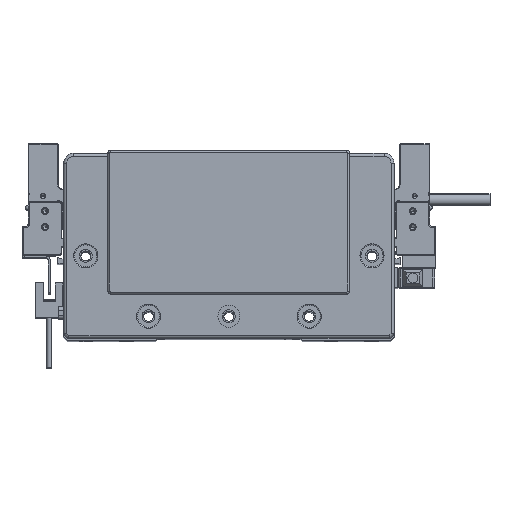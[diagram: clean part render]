
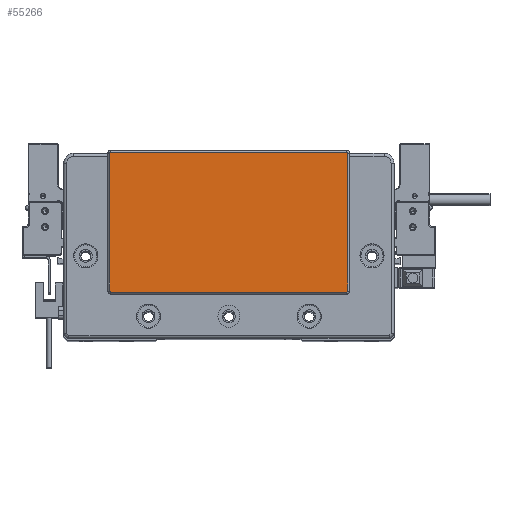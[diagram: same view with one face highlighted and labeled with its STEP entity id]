
A CAD part, top view. The second image highlights one B-rep face of the part: STEP entity #55266.
In plain terms, the highlighted planar face has unit normal (0, 0, 1) as drawn and (0, 0, -1) by its records, which use the part's own axes.
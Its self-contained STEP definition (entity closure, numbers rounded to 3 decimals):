
#994 = AXIS2_PLACEMENT_3D ( 'NONE', #24018, #28617, #46525 ) ;
#1152 = VERTEX_POINT ( 'NONE', #36279 ) ;
#2327 = AXIS2_PLACEMENT_3D ( 'NONE', #52969, #72035, #59787 ) ;
#2446 = EDGE_CURVE ( 'NONE', #69103, #41659, #11909, .T. ) ;
#2683 = CARTESIAN_POINT ( 'NONE',  ( -59.25, -23.3, -2. ) ) ;
#6038 = CARTESIAN_POINT ( 'NONE',  ( 0., 0., -2. ) ) ;
#7191 = ORIENTED_EDGE ( 'NONE', *, *, #13455, .T. ) ;
#7277 = DIRECTION ( 'NONE',  ( 0., 0., -1. ) ) ;
#9096 = ORIENTED_EDGE ( 'NONE', *, *, #25982, .T. ) ;
#9338 = CARTESIAN_POINT ( 'NONE',  ( -59.25, 45.3, -2. ) ) ;
#9447 = ORIENTED_EDGE ( 'NONE', *, *, #37708, .T. ) ;
#10205 = ORIENTED_EDGE ( 'NONE', *, *, #64218, .T. ) ;
#10637 = VERTEX_POINT ( 'NONE', #71212 ) ;
#11909 = CIRCLE ( 'NONE', #64340, 0.5 ) ;
#12482 = EDGE_CURVE ( 'NONE', #70603, #69103, #44726, .T. ) ;
#13455 = EDGE_CURVE ( 'NONE', #48731, #1152, #50563, .T. ) ;
#17348 = VERTEX_POINT ( 'NONE', #67335 ) ;
#21648 = LINE ( 'NONE', #74361, #68038 ) ;
#22571 = EDGE_CURVE ( 'NONE', #17348, #10637, #73101, .T. ) ;
#24018 = CARTESIAN_POINT ( 'NONE',  ( 58.75, 45.3, -2. ) ) ;
#24824 = DIRECTION ( 'NONE',  ( -1., 0., 0. ) ) ;
#25982 = EDGE_CURVE ( 'NONE', #1152, #70603, #53599, .T. ) ;
#27075 = CARTESIAN_POINT ( 'NONE',  ( 58.75, -23.3, -2. ) ) ;
#28045 = AXIS2_PLACEMENT_3D ( 'NONE', #27075, #56070, #51126 ) ;
#28617 = DIRECTION ( 'NONE',  ( 0., 0., -1. ) ) ;
#30061 = CARTESIAN_POINT ( 'NONE',  ( 58.75, -23.8, -2. ) ) ;
#30407 = CARTESIAN_POINT ( 'NONE',  ( 59.25, 45.3, -2. ) ) ;
#30421 = ORIENTED_EDGE ( 'NONE', *, *, #12482, .T. ) ;
#31259 = CARTESIAN_POINT ( 'NONE',  ( 58.75, 45.8, -2. ) ) ;
#32652 = DIRECTION ( 'NONE',  ( 0., 1., 0. ) ) ;
#34732 = CARTESIAN_POINT ( 'NONE',  ( -58.75, -23.8, -2. ) ) ;
#35807 = FACE_OUTER_BOUND ( 'NONE', #73051, .T. ) ;
#35974 = VECTOR ( 'NONE', #44803, 1000. ) ;
#36279 = CARTESIAN_POINT ( 'NONE',  ( 59.25, -23.3, -2. ) ) ;
#37708 = EDGE_CURVE ( 'NONE', #10637, #69187, #21648, .T. ) ;
#40769 = DIRECTION ( 'NONE',  ( -1., 0., 0. ) ) ;
#41659 = VERTEX_POINT ( 'NONE', #2683 ) ;
#41894 = PLANE ( 'NONE',  #54234 ) ;
#43271 = VECTOR ( 'NONE', #32652, 1000. ) ;
#43647 = CIRCLE ( 'NONE', #994, 0.5 ) ;
#44726 = LINE ( 'NONE', #68391, #62579 ) ;
#44803 = DIRECTION ( 'NONE',  ( 0., -1., 0. ) ) ;
#46525 = DIRECTION ( 'NONE',  ( -1., 0., 0. ) ) ;
#48731 = VERTEX_POINT ( 'NONE', #30407 ) ;
#50441 = ORIENTED_EDGE ( 'NONE', *, *, #2446, .T. ) ;
#50563 = LINE ( 'NONE', #55883, #35974 ) ;
#51126 = DIRECTION ( 'NONE',  ( -1., 0., 0. ) ) ;
#51641 = ORIENTED_EDGE ( 'NONE', *, *, #59913, .T. ) ;
#52969 = CARTESIAN_POINT ( 'NONE',  ( -58.75, 45.3, -2. ) ) ;
#53599 = CIRCLE ( 'NONE', #28045, 0.5 ) ;
#54234 = AXIS2_PLACEMENT_3D ( 'NONE', #6038, #70566, #40769 ) ;
#55266 = ADVANCED_FACE ( 'NONE', ( #35807 ), #41894, .T. ) ;
#55883 = CARTESIAN_POINT ( 'NONE',  ( 59.25, -23.3, -2. ) ) ;
#56070 = DIRECTION ( 'NONE',  ( 0., 0., -1. ) ) ;
#59556 = CARTESIAN_POINT ( 'NONE',  ( -58.75, -23.3, -2. ) ) ;
#59787 = DIRECTION ( 'NONE',  ( -1., 0., 0. ) ) ;
#59913 = EDGE_CURVE ( 'NONE', #69187, #48731, #43647, .T. ) ;
#61620 = LINE ( 'NONE', #9338, #43271 ) ;
#62579 = VECTOR ( 'NONE', #68016, 1000. ) ;
#62847 = DIRECTION ( 'NONE',  ( 1., 0., 0. ) ) ;
#64218 = EDGE_CURVE ( 'NONE', #41659, #17348, #61620, .T. ) ;
#64340 = AXIS2_PLACEMENT_3D ( 'NONE', #59556, #7277, #24824 ) ;
#67335 = CARTESIAN_POINT ( 'NONE',  ( -59.25, 45.3, -2. ) ) ;
#68016 = DIRECTION ( 'NONE',  ( -1., 0., 0. ) ) ;
#68038 = VECTOR ( 'NONE', #62847, 1000. ) ;
#68391 = CARTESIAN_POINT ( 'NONE',  ( -58.75, -23.8, -2. ) ) ;
#68918 = ORIENTED_EDGE ( 'NONE', *, *, #22571, .T. ) ;
#69103 = VERTEX_POINT ( 'NONE', #34732 ) ;
#69187 = VERTEX_POINT ( 'NONE', #31259 ) ;
#70566 = DIRECTION ( 'NONE',  ( 0., 0., -1. ) ) ;
#70603 = VERTEX_POINT ( 'NONE', #30061 ) ;
#71212 = CARTESIAN_POINT ( 'NONE',  ( -58.75, 45.8, -2. ) ) ;
#72035 = DIRECTION ( 'NONE',  ( 0., 0., -1. ) ) ;
#73051 = EDGE_LOOP ( 'NONE', ( #7191, #9096, #30421, #50441, #10205, #68918, #9447, #51641 ) ) ;
#73101 = CIRCLE ( 'NONE', #2327, 0.5 ) ;
#74361 = CARTESIAN_POINT ( 'NONE',  ( 58.75, 45.8, -2. ) ) ;
